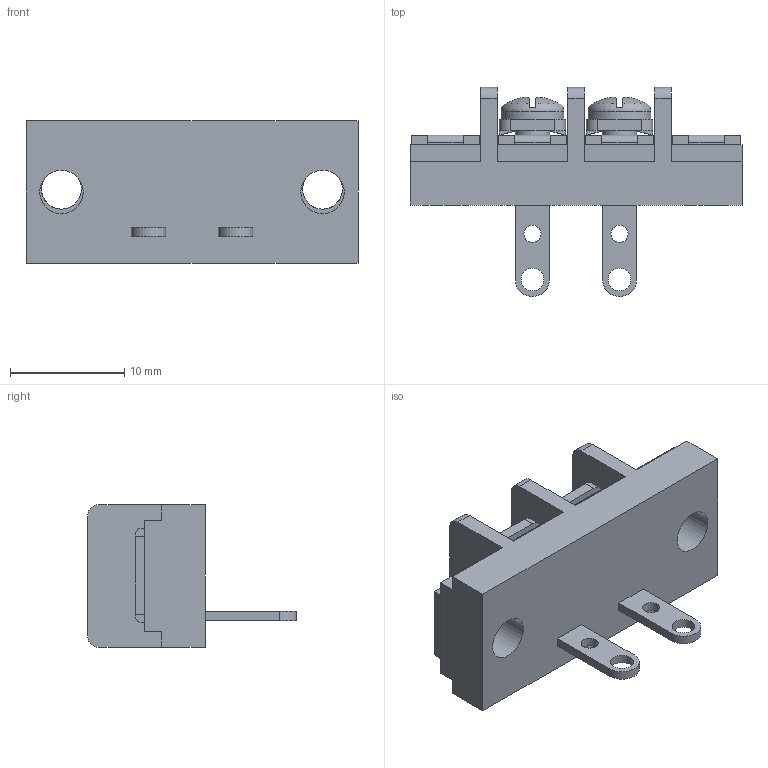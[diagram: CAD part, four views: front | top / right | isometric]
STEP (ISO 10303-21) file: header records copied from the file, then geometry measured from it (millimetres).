
FILE_DESCRIPTION(/* description */ ('Alibre Inc.'),/* implementation_level */ '2;1');
FILE_NAME(/* name */ 'export0',/* time_stamp */ '2015-10-26T17:57:32+09:00',/* author */ (''),/* organization */ (''),/* preprocessor_version */ 'ST-DEVELOPER v14',/* originating_system */ 'Alibre',/* authorisation */ '');
FILE_SCHEMA (('CONFIG_CONTROL_DESIGN'));
Length unit declared in the file: centimetre
Products named in the file (1): ID_1
Bounding box: 29.06 x 18.3 x 12.5 mm (x, y, z)
Volume: 2282.5 mm3; surface area: 2230.9 mm2
Topology: 1 solids, 17 shells, 636 faces, 1694 edges, 1122 vertices
Faces by surface type: plane 478, bspline 104, cylinder 38, cone 8, torus 4, sphere 4
Full cylindrical faces by diameter (mm): 1.5 x2, 2 x2, 3 x2, 3.5 x2, 3.8 x2, 5.5 x2
Entity records: 18935 total; most frequent: CARTESIAN_POINT 4471, ORIENTED_EDGE 3332, DIRECTION 2084, EDGE_CURVE 1666, VECTOR 1256, LINE 1256, VERTEX_POINT 1110, EDGE_LOOP 702
